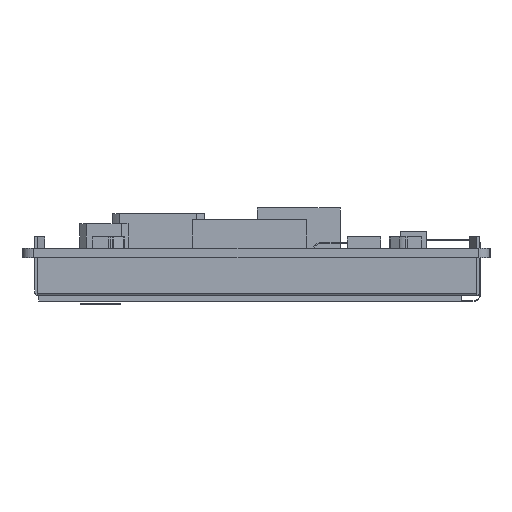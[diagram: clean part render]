
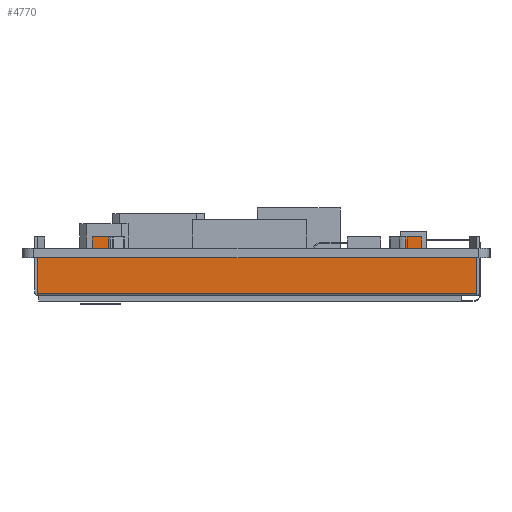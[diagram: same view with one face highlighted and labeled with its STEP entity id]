
A CAD part, left-side view. The second image highlights one B-rep face of the part: STEP entity #4770.
In plain terms, the highlighted planar face has unit normal (-1, 0, 0).
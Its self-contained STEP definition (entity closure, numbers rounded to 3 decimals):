
#3351=PLANE('',#32795);
#4770=ADVANCED_FACE('',(#6400),#3351,.F.);
#6400=FACE_OUTER_BOUND('',#7898,.T.);
#7898=EDGE_LOOP('',(#15632,#15633,#15634,#15635,#15636,#15637,#15638,#15639,
#15640,#15641,#15642,#15643,#15644,#15645,#15646,#15647));
#15632=ORIENTED_EDGE('',*,*,#23175,.F.);
#15633=ORIENTED_EDGE('',*,*,#23176,.T.);
#15634=ORIENTED_EDGE('',*,*,#23177,.T.);
#15635=ORIENTED_EDGE('',*,*,#23172,.T.);
#15636=ORIENTED_EDGE('',*,*,#23178,.T.);
#15637=ORIENTED_EDGE('',*,*,#23179,.F.);
#15638=ORIENTED_EDGE('',*,*,#23180,.T.);
#15639=ORIENTED_EDGE('',*,*,#23181,.F.);
#15640=ORIENTED_EDGE('',*,*,#23182,.F.);
#15641=ORIENTED_EDGE('',*,*,#23168,.T.);
#15642=ORIENTED_EDGE('',*,*,#23183,.T.);
#15643=ORIENTED_EDGE('',*,*,#23184,.T.);
#15644=ORIENTED_EDGE('',*,*,#23185,.F.);
#15645=ORIENTED_EDGE('',*,*,#23186,.F.);
#15646=ORIENTED_EDGE('',*,*,#23187,.F.);
#15647=ORIENTED_EDGE('',*,*,#23166,.T.);
#19197=VERTEX_POINT('',#48027);
#19199=VERTEX_POINT('',#48031);
#19200=VERTEX_POINT('',#48035);
#19202=VERTEX_POINT('',#48038);
#19204=VERTEX_POINT('',#48044);
#19206=VERTEX_POINT('',#48047);
#19208=VERTEX_POINT('',#48053);
#19209=VERTEX_POINT('',#48055);
#19210=VERTEX_POINT('',#48058);
#19211=VERTEX_POINT('',#48060);
#19212=VERTEX_POINT('',#48062);
#19213=VERTEX_POINT('',#48064);
#19214=VERTEX_POINT('',#48067);
#19215=VERTEX_POINT('',#48069);
#19216=VERTEX_POINT('',#48071);
#19217=VERTEX_POINT('',#48073);
#23166=EDGE_CURVE('',#19197,#19199,#26992,.T.);
#23168=EDGE_CURVE('',#19202,#19200,#26994,.T.);
#23172=EDGE_CURVE('',#19206,#19204,#26998,.T.);
#23175=EDGE_CURVE('',#19208,#19199,#27001,.T.);
#23176=EDGE_CURVE('',#19208,#19209,#27002,.T.);
#23177=EDGE_CURVE('',#19209,#19206,#27003,.T.);
#23178=EDGE_CURVE('',#19204,#19210,#27004,.T.);
#23179=EDGE_CURVE('',#19211,#19210,#27005,.T.);
#23180=EDGE_CURVE('',#19211,#19212,#27006,.T.);
#23181=EDGE_CURVE('',#19213,#19212,#27007,.T.);
#23182=EDGE_CURVE('',#19202,#19213,#27008,.T.);
#23183=EDGE_CURVE('',#19200,#19214,#27009,.T.);
#23184=EDGE_CURVE('',#19214,#19215,#27010,.T.);
#23185=EDGE_CURVE('',#19216,#19215,#27011,.T.);
#23186=EDGE_CURVE('',#19217,#19216,#27012,.T.);
#23187=EDGE_CURVE('',#19197,#19217,#27013,.T.);
#26992=LINE('',#48032,#30747);
#26994=LINE('',#48037,#30749);
#26998=LINE('',#48046,#30753);
#27001=LINE('',#48052,#30756);
#27002=LINE('',#48054,#30757);
#27003=LINE('',#48056,#30758);
#27004=LINE('',#48057,#30759);
#27005=LINE('',#48059,#30760);
#27006=LINE('',#48061,#30761);
#27007=LINE('',#48063,#30762);
#27008=LINE('',#48065,#30763);
#27009=LINE('',#48066,#30764);
#27010=LINE('',#48068,#30765);
#27011=LINE('',#48070,#30766);
#27012=LINE('',#48072,#30767);
#27013=LINE('',#48074,#30768);
#30747=VECTOR('',#39343,1.);
#30749=VECTOR('',#39347,1.);
#30753=VECTOR('',#39353,1.);
#30756=VECTOR('',#39358,1.);
#30757=VECTOR('',#39359,1.);
#30758=VECTOR('',#39360,1.);
#30759=VECTOR('',#39361,1.);
#30760=VECTOR('',#39362,1.);
#30761=VECTOR('',#39363,1.);
#30762=VECTOR('',#39364,1.);
#30763=VECTOR('',#39365,1.);
#30764=VECTOR('',#39366,1.);
#30765=VECTOR('',#39367,1.);
#30766=VECTOR('',#39368,1.);
#30767=VECTOR('',#39369,1.);
#30768=VECTOR('',#39370,1.);
#32795=AXIS2_PLACEMENT_3D('',#48075,#39371,#39372);
#39343=DIRECTION('',(0.,1.,0.));
#39347=DIRECTION('',(0.,1.,0.));
#39353=DIRECTION('',(0.,1.,0.));
#39358=DIRECTION('',(0.,0.,1.));
#39359=DIRECTION('',(0.,-1.,0.));
#39360=DIRECTION('',(0.,0.,1.));
#39361=DIRECTION('',(0.,0.,1.));
#39362=DIRECTION('',(0.,-1.,0.));
#39363=DIRECTION('',(0.,0.,-1.));
#39364=DIRECTION('',(0.,-1.,0.));
#39365=DIRECTION('',(0.,0.,1.));
#39366=DIRECTION('',(0.,0.,1.));
#39367=DIRECTION('',(0.,-1.,0.));
#39368=DIRECTION('',(0.,0.,-1.));
#39369=DIRECTION('',(0.,-1.,0.));
#39370=DIRECTION('',(0.,0.,1.));
#39371=DIRECTION('',(1.,0.,0.));
#39372=DIRECTION('',(0.,1.,0.));
#48027=CARTESIAN_POINT('',(59.66,45.295,-1.6));
#48031=CARTESIAN_POINT('',(59.66,54.82,-1.6));
#48032=CARTESIAN_POINT('',(59.66,-21.2,-1.6));
#48035=CARTESIAN_POINT('',(59.66,42.295,-1.6));
#48037=CARTESIAN_POINT('',(59.66,-21.2,-1.6));
#48038=CARTESIAN_POINT('',(59.66,-8.635,-1.6));
#48044=CARTESIAN_POINT('',(59.66,-11.635,-1.6));
#48046=CARTESIAN_POINT('',(59.66,-21.2,-1.6));
#48047=CARTESIAN_POINT('',(59.66,-21.2,-1.6));
#48052=CARTESIAN_POINT('',(59.66,54.82,-8.1));
#48053=CARTESIAN_POINT('',(59.66,54.82,-7.7));
#48054=CARTESIAN_POINT('',(59.66,-21.2,-7.7));
#48055=CARTESIAN_POINT('',(59.66,-21.2,-7.7));
#48056=CARTESIAN_POINT('',(59.66,-21.2,-8.1));
#48057=CARTESIAN_POINT('',(59.66,-11.635,-1.6));
#48058=CARTESIAN_POINT('',(59.66,-11.635,2.));
#48059=CARTESIAN_POINT('',(59.66,-8.924,2.));
#48060=CARTESIAN_POINT('',(59.66,-8.924,2.));
#48061=CARTESIAN_POINT('',(59.66,-8.924,2.));
#48062=CARTESIAN_POINT('',(59.66,-8.924,0.));
#48063=CARTESIAN_POINT('',(59.66,-8.635,0.));
#48064=CARTESIAN_POINT('',(59.66,-8.635,0.));
#48065=CARTESIAN_POINT('',(59.66,-8.635,-1.6));
#48066=CARTESIAN_POINT('',(59.66,42.295,-1.6));
#48067=CARTESIAN_POINT('',(59.66,42.295,0.));
#48068=CARTESIAN_POINT('',(59.66,45.295,0.));
#48069=CARTESIAN_POINT('',(59.66,42.191,0.));
#48070=CARTESIAN_POINT('',(59.66,42.191,2.));
#48071=CARTESIAN_POINT('',(59.66,42.191,2.));
#48072=CARTESIAN_POINT('',(59.66,45.295,2.));
#48073=CARTESIAN_POINT('',(59.66,45.295,2.));
#48074=CARTESIAN_POINT('',(59.66,45.295,-1.6));
#48075=CARTESIAN_POINT('',(59.66,-21.2,-8.1));
